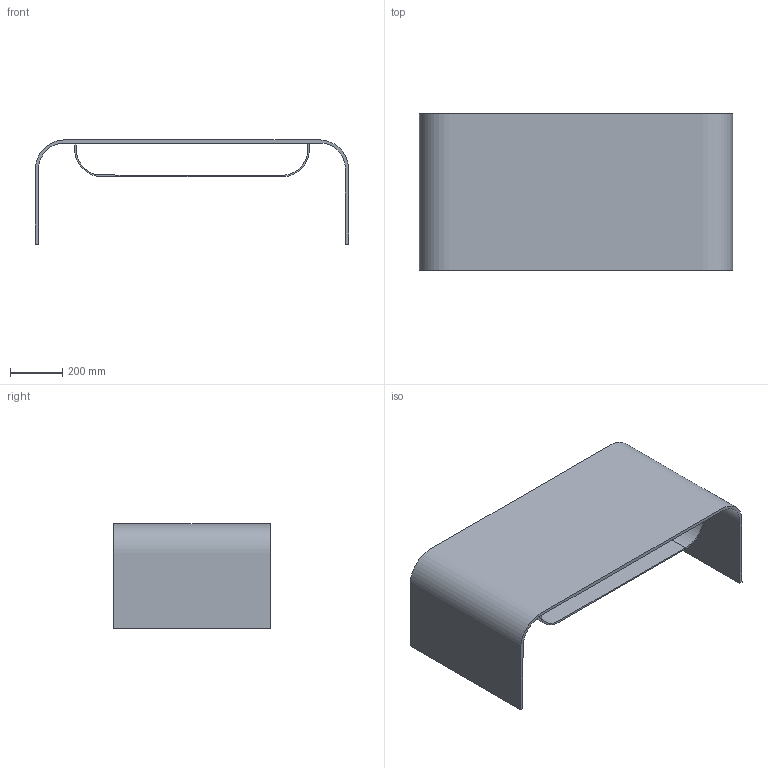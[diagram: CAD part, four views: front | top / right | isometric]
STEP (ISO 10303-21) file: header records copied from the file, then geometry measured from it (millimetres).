
FILE_DESCRIPTION(/* description */ (''),/* implementation_level */ '2;1');
FILE_NAME(/* name */ '0181 - Giano 120x60',/* time_stamp */ '2010-11-03T17:48:16+01:00',/* author */ (''),/* organization */ (''),/* preprocessor_version */ 'ST-DEVELOPER v10',/* originating_system */ '',/* authorisation */ '');
FILE_SCHEMA (('CONFIG_CONTROL_DESIGN'));
Length unit declared in the file: centimetre
Products named in the file (1): 1
Bounding box: 1200 x 600 x 400 mm (x, y, z)
Volume: 16368529 mm3; surface area: 3409377.8 mm2
Topology: 2 solids, 2 shells, 13 faces, 27 edges, 18 vertices
Faces by surface type: plane 8, bspline 5
Entity records: 515 total; most frequent: CARTESIAN_POINT 242, ORIENTED_EDGE 54, EDGE_CURVE 27, VERTEX_POINT 18, B_SPLINE_CURVE_WITH_KNOTS 17, ADVANCED_FACE 13, FACE_OUTER_BOUND 13, EDGE_LOOP 13
